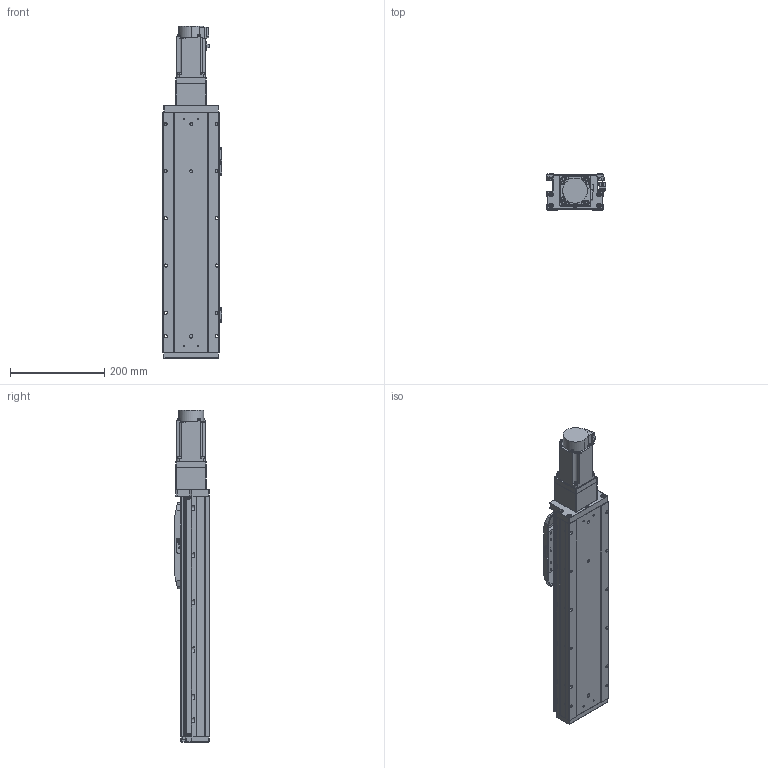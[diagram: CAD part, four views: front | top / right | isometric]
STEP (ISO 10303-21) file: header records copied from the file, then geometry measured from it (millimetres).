
FILE_DESCRIPTION (( 'STEP AP203' ), '1' );
FILE_NAME ('GTH12-300-BC-M40-C4.step', '2022-09-23T01:14:10', ( '微软用户' ), ( '微软中国' ), 'SwSTEP 2.0', 'SolidWorks 2020', '' );
FILE_SCHEMA (( 'CONFIG_CONTROL_DESIGN' ));
Length unit declared in the file: millimetre
Products named in the file (19): CTHA86-027; GTH120-001_300; GTH50-023; hg-kn43j_-s100_; GTH120-003; GTH50-024; GTH12-300-BC-M40-C4; GTH120-006; GBT96.1-2002 3×0.8; GTH120-004; BTH-M3X5X6; GTH120-013; GBT 70.3-M3℅8; CTHA86-006-1_CTHA86-006-2; GBT 70.1-M3℅6; GTH80-022; CTHA86-013; GBT 70.1-M5×16; GTH80-028
Assembly tree (62 placements, depth 2):
  GTH12-300-BC-M40-C4
    GTH120-001_300
    GTH120-003
    GTH120-006
    GTH120-004
    GTH120-013
    GBT 70.1-M3℅6  x14
    GBT 70.1-M5×16  x10
    GBT 70.3-M3℅8  x6
    GTH80-022
    GTH80-028  x2
    GTH50-023  x3
    GTH50-024  x3
    GBT96.1-2002 3×0.8  x6
    BTH-M3X5X6  x8
    CTHA86-006-1_CTHA86-006-2
    CTHA86-013
    CTHA86-027
    hg-kn43j_-s100_
Bounding box: 125.7 x 76 x 703.7 mm (x, y, z)
Volume: 4399276.7 mm3; surface area: 466010 mm2
Topology: 64 solids, 64 shells, 2395 faces, 5530 edges, 3367 vertices
Faces by surface type: plane 1232, cylinder 666, cone 319, torus 170, sphere 8
Entity records: 42143 total; most frequent: DIRECTION 7016, CARTESIAN_POINT 6740, ORIENTED_EDGE 6442, EDGE_CURVE 3221, AXIS2_PLACEMENT_3D 2452, VECTOR 2112, LINE 2112, VERTEX_POINT 2026
